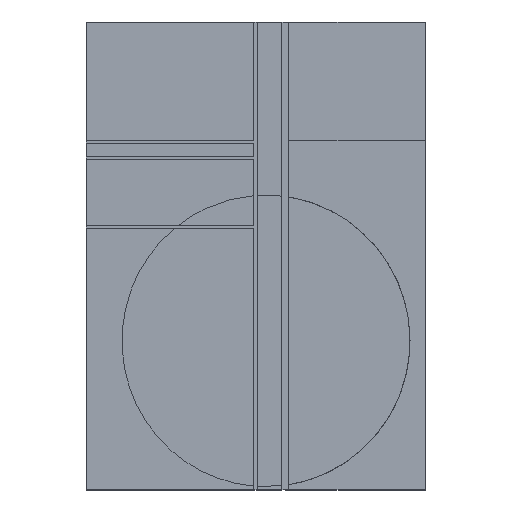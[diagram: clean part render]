
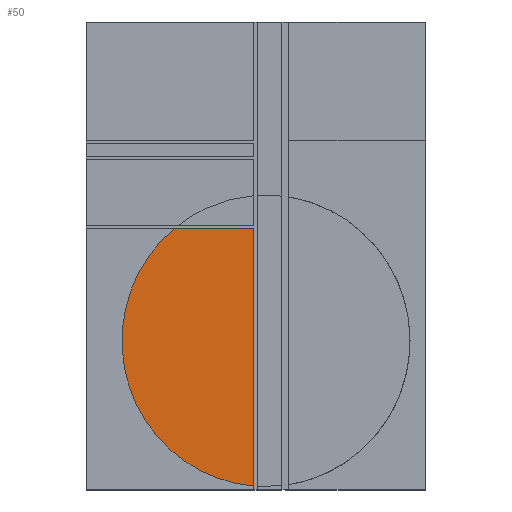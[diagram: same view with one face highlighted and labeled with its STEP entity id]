
A CAD part, top view. The second image highlights one B-rep face of the part: STEP entity #50.
In plain terms, the highlighted planar face has unit normal (0, 0, 1).
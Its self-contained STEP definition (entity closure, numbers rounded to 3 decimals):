
#50=ADVANCED_FACE('',(#155),#1453,.T.);
#155=FACE_OUTER_BOUND('',#260,.T.);
#260=EDGE_LOOP('',(#393,#394,#395,#396));
#393=ORIENTED_EDGE('',*,*,#831,.T.);
#394=ORIENTED_EDGE('',*,*,#833,.T.);
#395=ORIENTED_EDGE('',*,*,#835,.T.);
#396=ORIENTED_EDGE('',*,*,#837,.T.);
#831=EDGE_CURVE('',#1289,#1290,#1058,.T.);
#833=EDGE_CURVE('',#1290,#1291,#1251,.T.);
#835=EDGE_CURVE('',#1291,#1292,#1252,.T.);
#837=EDGE_CURVE('',#1292,#1289,#1062,.T.);
#1058=B_SPLINE_CURVE_WITH_KNOTS('',1,(#1894,#1895),.UNSPECIFIED.,.F.,.F.,
(2,2),(0.,462.139),.UNSPECIFIED.);
#1062=B_SPLINE_CURVE_WITH_KNOTS('',1,(#1910,#1911),.UNSPECIFIED.,.F.,.F.,
(2,2),(320.839,1527.468),.UNSPECIFIED.);
#1251=(
BOUNDED_CURVE()
B_SPLINE_CURVE(2,(#1898,#1899,#1900,#1901,#1902),.UNSPECIFIED.,.F.,.F.)
B_SPLINE_CURVE_WITH_KNOTS((3,2,3),(3760.912,4597.534,5434.157),
 .UNSPECIFIED.)
CURVE()
GEOMETRIC_REPRESENTATION_ITEM()
RATIONAL_B_SPLINE_CURVE((1.,0.879,1.,0.879,1.))
REPRESENTATION_ITEM('')
);
#1252=(
BOUNDED_CURVE()
B_SPLINE_CURVE(2,(#1905,#1906,#1907),.UNSPECIFIED.,.F.,.F.)
B_SPLINE_CURVE_WITH_KNOTS((3,3),(0.,353.077),.UNSPECIFIED.)
CURVE()
GEOMETRIC_REPRESENTATION_ITEM()
RATIONAL_B_SPLINE_CURVE((1.,0.981,1.))
REPRESENTATION_ITEM('')
);
#1289=VERTEX_POINT('',#1876);
#1290=VERTEX_POINT('',#1877);
#1291=VERTEX_POINT('',#1878);
#1292=VERTEX_POINT('',#1879);
#1453=PLANE('',#1633);
#1633=AXIS2_PLACEMENT_3D('',#1871,#1728,$);
#1728=DIRECTION('',(0.,0.,1.));
#1871=CARTESIAN_POINT('',(181.064,-372.821,13.636));
#1876=CARTESIAN_POINT('',(1234.06,1931.165,13.636));
#1877=CARTESIAN_POINT('',(651.797,1931.165,13.636));
#1878=CARTESIAN_POINT('',(841.931,141.86,13.636));
#1879=CARTESIAN_POINT('',(1234.06,28.737,13.636));
#1894=CARTESIAN_POINT('',(1234.06,1931.165,13.636));
#1895=CARTESIAN_POINT('',(651.797,1931.165,13.636));
#1898=CARTESIAN_POINT('',(651.797,1931.165,13.636));
#1899=CARTESIAN_POINT('',(206.516,1562.955,13.636));
#1900=CARTESIAN_POINT('',(267.992,984.416,13.636));
#1901=CARTESIAN_POINT('',(329.468,405.877,13.636));
#1902=CARTESIAN_POINT('',(841.931,141.86,13.636));
#1905=CARTESIAN_POINT('',(841.931,141.86,13.636));
#1906=CARTESIAN_POINT('',(1027.059,46.484,13.636));
#1907=CARTESIAN_POINT('',(1234.06,28.737,13.636));
#1910=CARTESIAN_POINT('',(1234.06,28.737,13.636));
#1911=CARTESIAN_POINT('',(1234.06,1931.165,13.636));
